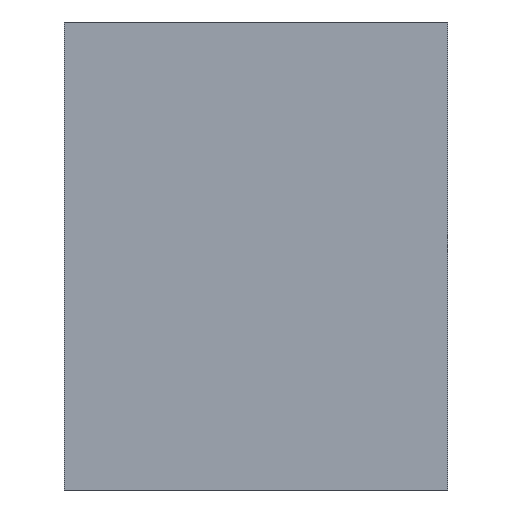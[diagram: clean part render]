
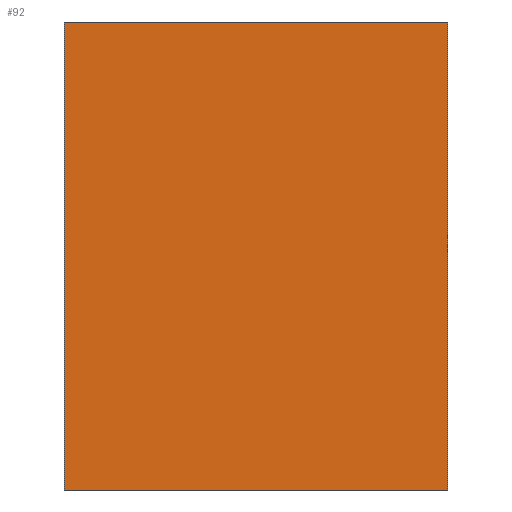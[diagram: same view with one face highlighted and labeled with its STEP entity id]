
A CAD part, top view. The second image highlights one B-rep face of the part: STEP entity #92.
In plain terms, the highlighted planar face has unit normal (0, 0, 1).
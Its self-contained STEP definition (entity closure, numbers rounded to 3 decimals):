
#53=CARTESIAN_POINT('Axis2P3D Location',(0.,0.,0.)) ;
#58=CARTESIAN_POINT('Line Origine',(45.5,0.,0.)) ;
#62=CARTESIAN_POINT('Vertex',(0.,0.,0.)) ;
#64=CARTESIAN_POINT('Vertex',(91.,0.,0.)) ;
#67=CARTESIAN_POINT('Line Origine',(91.,55.5,0.)) ;
#71=CARTESIAN_POINT('Vertex',(91.,111.,0.)) ;
#74=CARTESIAN_POINT('Line Origine',(45.5,111.,0.)) ;
#78=CARTESIAN_POINT('Vertex',(0.,111.,0.)) ;
#81=CARTESIAN_POINT('Line Origine',(0.,55.5,0.)) ;
#54=DIRECTION('Axis2P3D Direction',(0.,0.,1.)) ;
#55=DIRECTION('Axis2P3D XDirection',(1.,0.,0.)) ;
#59=DIRECTION('Vector Direction',(1.,0.,0.)) ;
#68=DIRECTION('Vector Direction',(0.,1.,0.)) ;
#75=DIRECTION('Vector Direction',(-1.,0.,0.)) ;
#82=DIRECTION('Vector Direction',(0.,-1.,0.)) ;
#56=AXIS2_PLACEMENT_3D('Plane Axis2P3D',#53,#54,#55) ;
#87=ORIENTED_EDGE('',*,*,#66,.T.) ;
#88=ORIENTED_EDGE('',*,*,#73,.T.) ;
#89=ORIENTED_EDGE('',*,*,#80,.T.) ;
#90=ORIENTED_EDGE('',*,*,#85,.T.) ;
#60=VECTOR('Line Direction',#59,1.) ;
#69=VECTOR('Line Direction',#68,1.) ;
#76=VECTOR('Line Direction',#75,1.) ;
#83=VECTOR('Line Direction',#82,1.) ;
#92=ADVANCED_FACE('Fill.1',(#91),#57,.T.) ;
#66=EDGE_CURVE('',#63,#65,#61,.T.) ;
#73=EDGE_CURVE('',#65,#72,#70,.T.) ;
#80=EDGE_CURVE('',#72,#79,#77,.T.) ;
#85=EDGE_CURVE('',#79,#63,#84,.T.) ;
#86=EDGE_LOOP('',(#87,#88,#89,#90)) ;
#91=FACE_OUTER_BOUND('',#86,.T.) ;
#61=LINE('Line',#58,#60) ;
#70=LINE('Line',#67,#69) ;
#77=LINE('Line',#74,#76) ;
#84=LINE('Line',#81,#83) ;
#57=PLANE('',#56) ;
#63=VERTEX_POINT('',#62) ;
#65=VERTEX_POINT('',#64) ;
#72=VERTEX_POINT('',#71) ;
#79=VERTEX_POINT('',#78) ;
